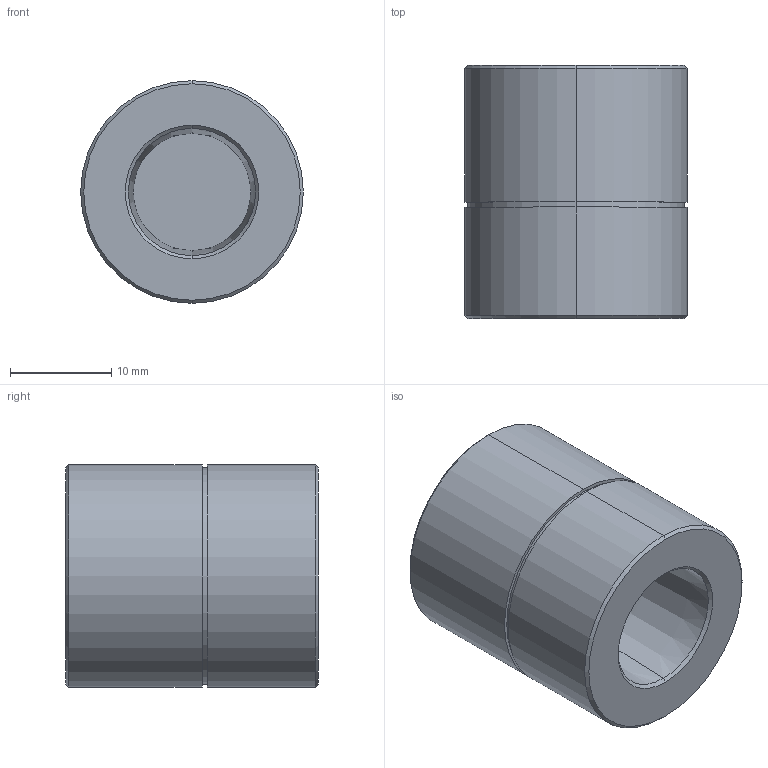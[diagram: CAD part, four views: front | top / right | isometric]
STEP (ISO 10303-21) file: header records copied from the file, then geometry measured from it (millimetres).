
FILE_DESCRIPTION (( 'STEP AP203' ), '1' );
FILE_NAME ('SW-PN-F10-22D-T.STEP', '2022-03-28T07:13:01', ( '' ), ( '' ), 'SwSTEP 2.0', 'SolidWorks 2015', '' );
FILE_SCHEMA (( 'CONFIG_CONTROL_DESIGN' ));
Length unit declared in the file: millimetre
Products named in the file (2): SW-PN-F10-22D-T
Bounding box: 22 x 25 x 22 mm (x, y, z)
Volume: 7276.2 mm3; surface area: 3277.1 mm2
Topology: 1 solids, 1 shells, 22 faces, 42 edges, 26 vertices
Faces by surface type: cylinder 8, cone 8, plane 6
Entity records: 719 total; most frequent: DIRECTION 116, CARTESIAN_POINT 92, ORIENTED_EDGE 84, AXIS2_PLACEMENT_3D 50, EDGE_CURVE 42, EDGE_LOOP 26, VERTEX_POINT 26, CIRCLE 26
